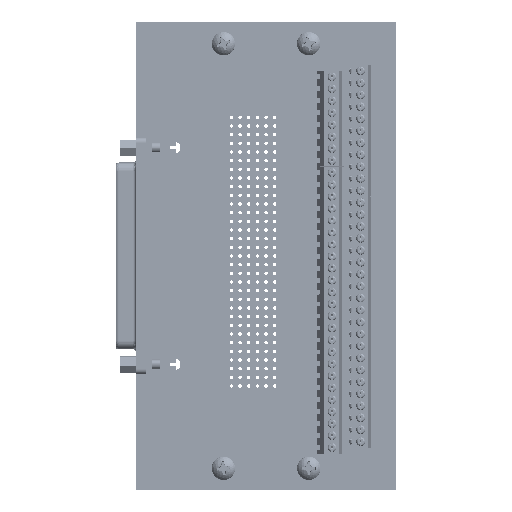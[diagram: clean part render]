
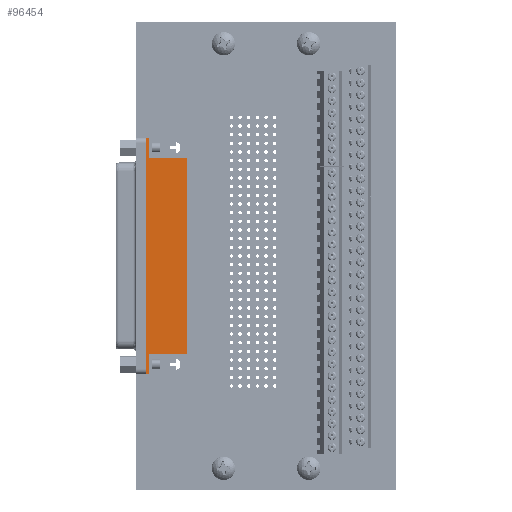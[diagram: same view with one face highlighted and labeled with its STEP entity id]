
A CAD part, top view. The second image highlights one B-rep face of the part: STEP entity #96454.
In plain terms, the highlighted planar face has unit normal (0, 0, 1) as drawn and (0, 1, 0) by its records, which use the part's own axes.
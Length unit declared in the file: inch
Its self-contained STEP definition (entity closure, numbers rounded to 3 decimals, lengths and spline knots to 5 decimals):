
#2055 = LINE ( 'NONE', #327823, #289072 ) ;
#3975 = VECTOR ( 'NONE', #265672, 39.37008 ) ;
#7769 = DIRECTION ( 'NONE',  ( 1., 0., 0. ) ) ;
#15743 = ORIENTED_EDGE ( 'NONE', *, *, #208091, .T. ) ;
#21624 = FACE_OUTER_BOUND ( 'NONE', #384840, .T. ) ;
#25651 = DIRECTION ( 'NONE',  ( 0., 0., -1. ) ) ;
#28802 = ORIENTED_EDGE ( 'NONE', *, *, #367564, .T. ) ;
#36485 = CARTESIAN_POINT ( 'NONE',  ( -1.36614, 0.17126, -0.38583 ) ) ;
#40162 = ORIENTED_EDGE ( 'NONE', *, *, #157223, .T. ) ;
#44681 = DIRECTION ( 'NONE',  ( 1., 0., 0. ) ) ;
#48951 = VERTEX_POINT ( 'NONE', #275407 ) ;
#53969 = CARTESIAN_POINT ( 'NONE',  ( -1.36614, 0.17126, -0.38583 ) ) ;
#54333 = VERTEX_POINT ( 'NONE', #153487 ) ;
#62801 = VECTOR ( 'NONE', #25651, 39.37008 ) ;
#67500 = DIRECTION ( 'NONE',  ( 0., 1., 0. ) ) ;
#69980 = EDGE_CURVE ( 'NONE', #218795, #54333, #408975, .T. ) ;
#82297 = VERTEX_POINT ( 'NONE', #222269 ) ;
#82823 = LINE ( 'NONE', #53969, #128792 ) ;
#83333 = LINE ( 'NONE', #339672, #62801 ) ;
#86861 = ORIENTED_EDGE ( 'NONE', *, *, #235281, .F. ) ;
#96454 = ADVANCED_FACE ( 'NONE', ( #21624 ), #131849, .T. ) ;
#113184 = CARTESIAN_POINT ( 'NONE',  ( -1.36614, 0.17126, -0.8252 ) ) ;
#120399 = CARTESIAN_POINT ( 'NONE',  ( 1.36614, 0.17126, -0.38583 ) ) ;
#121374 = VERTEX_POINT ( 'NONE', #120399 ) ;
#127058 = CARTESIAN_POINT ( 'NONE',  ( 1.12953, 0.17126, -0.8252 ) ) ;
#128792 = VECTOR ( 'NONE', #250318, 39.37008 ) ;
#129008 = DIRECTION ( 'NONE',  ( 0., 0., 1. ) ) ;
#131490 = DIRECTION ( 'NONE',  ( -1., 0., 0. ) ) ;
#131849 = PLANE ( 'NONE',  #136260 ) ;
#133318 = CARTESIAN_POINT ( 'NONE',  ( 1.12953, 0.17126, -0.8252 ) ) ;
#136260 = AXIS2_PLACEMENT_3D ( 'NONE', #421373, #67500, #129008 ) ;
#141872 = VERTEX_POINT ( 'NONE', #36485 ) ;
#153487 = CARTESIAN_POINT ( 'NONE',  ( -1.12953, 0.17126, -0.38583 ) ) ;
#155435 = EDGE_CURVE ( 'NONE', #48951, #121374, #83333, .T. ) ;
#157223 = EDGE_CURVE ( 'NONE', #121374, #205034, #82823, .T. ) ;
#159469 = CARTESIAN_POINT ( 'NONE',  ( 1.12953, 0.17126, -0.38583 ) ) ;
#163976 = CARTESIAN_POINT ( 'NONE',  ( -1.12953, 0.17126, -0.8252 ) ) ;
#170581 = LINE ( 'NONE', #231603, #211757 ) ;
#176493 = ORIENTED_EDGE ( 'NONE', *, *, #195396, .T. ) ;
#187588 = EDGE_CURVE ( 'NONE', #141872, #82297, #336938, .T. ) ;
#193038 = DIRECTION ( 'NONE',  ( 0., 0., -1. ) ) ;
#195396 = EDGE_CURVE ( 'NONE', #82297, #48951, #221252, .T. ) ;
#199668 = LINE ( 'NONE', #127058, #322521 ) ;
#205034 = VERTEX_POINT ( 'NONE', #159469 ) ;
#206677 = CARTESIAN_POINT ( 'NONE',  ( -1.36614, 0.17126, -0.34803 ) ) ;
#208091 = EDGE_CURVE ( 'NONE', #205034, #327377, #199668, .T. ) ;
#211757 = VECTOR ( 'NONE', #7769, 39.37008 ) ;
#218795 = VERTEX_POINT ( 'NONE', #308112 ) ;
#221252 = LINE ( 'NONE', #206677, #385128 ) ;
#222269 = CARTESIAN_POINT ( 'NONE',  ( -1.36614, 0.17126, -0.34803 ) ) ;
#231603 = CARTESIAN_POINT ( 'NONE',  ( -1.36614, 0.17126, -0.8252 ) ) ;
#235281 = EDGE_CURVE ( 'NONE', #218795, #327377, #170581, .T. ) ;
#250318 = DIRECTION ( 'NONE',  ( -1., 0., 0. ) ) ;
#265672 = DIRECTION ( 'NONE',  ( 0., 0., 1. ) ) ;
#270026 = VECTOR ( 'NONE', #412480, 39.37008 ) ;
#275407 = CARTESIAN_POINT ( 'NONE',  ( 1.36614, 0.17126, -0.34803 ) ) ;
#289072 = VECTOR ( 'NONE', #131490, 39.37008 ) ;
#298954 = ORIENTED_EDGE ( 'NONE', *, *, #187588, .T. ) ;
#308112 = CARTESIAN_POINT ( 'NONE',  ( -1.12953, 0.17126, -0.8252 ) ) ;
#322521 = VECTOR ( 'NONE', #193038, 39.37008 ) ;
#327377 = VERTEX_POINT ( 'NONE', #133318 ) ;
#327823 = CARTESIAN_POINT ( 'NONE',  ( -1.36614, 0.17126, -0.38583 ) ) ;
#336938 = LINE ( 'NONE', #113184, #270026 ) ;
#339672 = CARTESIAN_POINT ( 'NONE',  ( 1.36614, 0.17126, -0.8252 ) ) ;
#367564 = EDGE_CURVE ( 'NONE', #54333, #141872, #2055, .T. ) ;
#378834 = ORIENTED_EDGE ( 'NONE', *, *, #155435, .T. ) ;
#384840 = EDGE_LOOP ( 'NONE', ( #40162, #15743, #86861, #387660, #28802, #298954, #176493, #378834 ) ) ;
#385128 = VECTOR ( 'NONE', #44681, 39.37008 ) ;
#387660 = ORIENTED_EDGE ( 'NONE', *, *, #69980, .T. ) ;
#408975 = LINE ( 'NONE', #163976, #3975 ) ;
#412480 = DIRECTION ( 'NONE',  ( 0., 0., 1. ) ) ;
#421373 = CARTESIAN_POINT ( 'NONE',  ( -1.36614, 0.17126, -0.8252 ) ) ;
